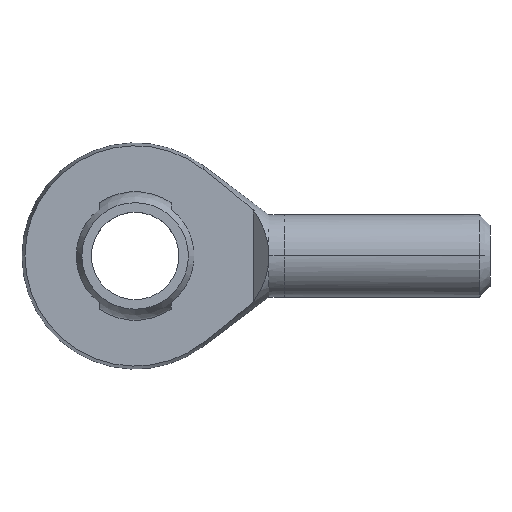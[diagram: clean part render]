
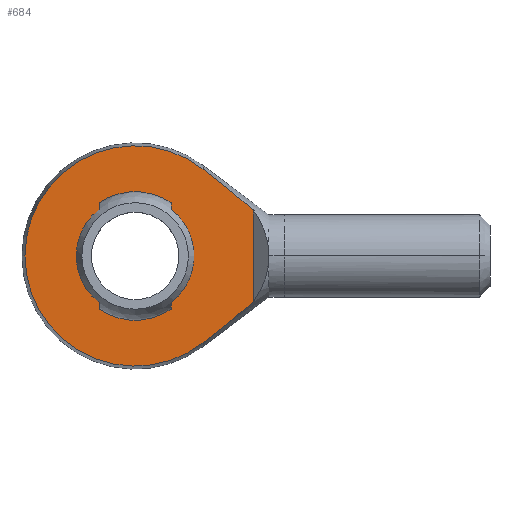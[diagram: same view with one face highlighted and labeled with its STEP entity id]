
A CAD part, top view. The second image highlights one B-rep face of the part: STEP entity #684.
In plain terms, the highlighted planar face has unit normal (0, 0, 1).
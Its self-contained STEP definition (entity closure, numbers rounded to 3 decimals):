
#3 = VERTEX_POINT ( 'NONE', #776 ) ;
#8 = VERTEX_POINT ( 'NONE', #767 ) ;
#9 = EDGE_CURVE ( 'NONE', #3, #8, #762, .T. ) ;
#86 = DIRECTION ( 'NONE',  ( 0., 1., 0. ) ) ;
#87 = VECTOR ( 'NONE', #86, 1000. ) ;
#88 = CARTESIAN_POINT ( 'NONE',  ( 7., 10.356, 5. ) ) ;
#89 = LINE ( 'NONE', #88, #87 ) ;
#95 = CARTESIAN_POINT ( 'NONE',  ( 23., -8.943, 5. ) ) ;
#96 = CARTESIAN_POINT ( 'NONE',  ( 7., -9.069, 5. ) ) ;
#97 = CARTESIAN_POINT ( 'NONE',  ( 7., -10.356, 5. ) ) ;
#107 = CARTESIAN_POINT ( 'NONE',  ( 7., 9.069, 5. ) ) ;
#114 = DIRECTION ( 'NONE',  ( 0., 1., 0. ) ) ;
#115 = VECTOR ( 'NONE', #114, 1000. ) ;
#116 = CARTESIAN_POINT ( 'NONE',  ( 7., 10.356, 5. ) ) ;
#117 = LINE ( 'NONE', #116, #115 ) ;
#567 = EDGE_CURVE ( 'NONE', #8, #1270, #871, .T. ) ;
#617 = VERTEX_POINT ( 'NONE', #987 ) ;
#679 = ORIENTED_EDGE ( 'NONE', *, *, #1256, .F. ) ;
#680 = EDGE_LOOP ( 'NONE', ( #679, #682, #687, #689, #685, #702, #703, #698 ) ) ;
#681 = EDGE_CURVE ( 'NONE', #1259, #1267, #1111, .T. ) ;
#682 = ORIENTED_EDGE ( 'NONE', *, *, #681, .T. ) ;
#683 = EDGE_CURVE ( 'NONE', #711, #686, #1106, .T. ) ;
#684 = ADVANCED_FACE ( 'NONE', ( #1102, #1101 ), #1100, .F. ) ;
#685 = ORIENTED_EDGE ( 'NONE', *, *, #683, .F. ) ;
#686 = VERTEX_POINT ( 'NONE', #1095 ) ;
#687 = ORIENTED_EDGE ( 'NONE', *, *, #1271, .F. ) ;
#689 = ORIENTED_EDGE ( 'NONE', *, *, #690, .F. ) ;
#690 = EDGE_CURVE ( 'NONE', #686, #1266, #1089, .T. ) ;
#691 = EDGE_LOOP ( 'NONE', ( #692, #695, #693, #694 ) ) ;
#692 = ORIENTED_EDGE ( 'NONE', *, *, #567, .T. ) ;
#693 = ORIENTED_EDGE ( 'NONE', *, *, #724, .T. ) ;
#694 = ORIENTED_EDGE ( 'NONE', *, *, #9, .T. ) ;
#695 = ORIENTED_EDGE ( 'NONE', *, *, #696, .T. ) ;
#696 = EDGE_CURVE ( 'NONE', #1270, #747, #1147, .T. ) ;
#698 = ORIENTED_EDGE ( 'NONE', *, *, #699, .F. ) ;
#699 = EDGE_CURVE ( 'NONE', #1238, #617, #1136, .T. ) ;
#702 = ORIENTED_EDGE ( 'NONE', *, *, #733, .T. ) ;
#703 = ORIENTED_EDGE ( 'NONE', *, *, #1233, .F. ) ;
#711 = VERTEX_POINT ( 'NONE', #1129 ) ;
#724 = EDGE_CURVE ( 'NONE', #747, #3, #1172, .T. ) ;
#733 = EDGE_CURVE ( 'NONE', #711, #735, #1202, .T. ) ;
#735 = VERTEX_POINT ( 'NONE', #1196 ) ;
#747 = VERTEX_POINT ( 'NONE', #1229 ) ;
#758 = DIRECTION ( 'NONE',  ( -1., 0., 0. ) ) ;
#759 = DIRECTION ( 'NONE',  ( 0., 0., 1. ) ) ;
#760 = CARTESIAN_POINT ( 'NONE',  ( 0., 0., 5. ) ) ;
#761 = AXIS2_PLACEMENT_3D ( 'NONE', #760, #759, #758 ) ;
#762 = CIRCLE ( 'NONE', #761, 21.424 ) ;
#767 = CARTESIAN_POINT ( 'NONE',  ( 13.204, -16.871, 5. ) ) ;
#776 = CARTESIAN_POINT ( 'NONE',  ( 13.204, 16.871, 5. ) ) ;
#864 = CARTESIAN_POINT ( 'NONE',  ( 23., -8.943, 5. ) ) ;
#865 = CARTESIAN_POINT ( 'NONE',  ( 21.406, -10.314, 5. ) ) ;
#866 = CARTESIAN_POINT ( 'NONE',  ( 19.78, -11.643, 5. ) ) ;
#867 = CARTESIAN_POINT ( 'NONE',  ( 16.507, -14.276, 5. ) ) ;
#868 = CARTESIAN_POINT ( 'NONE',  ( 14.858, -15.577, 5. ) ) ;
#869 = CARTESIAN_POINT ( 'NONE',  ( 13.204, -16.871, 5. ) ) ;
#871 = B_SPLINE_CURVE_WITH_KNOTS ( 'NONE', 3,
 ( #869, #868, #867, #866, #865, #864 ),
 .UNSPECIFIED., .F., .F.,
 ( 4, 2, 4 ),
 ( 0.062, 0.068, 0.074 ),
 .UNSPECIFIED. ) ;
#969 = CARTESIAN_POINT ( 'NONE',  ( 7., 10.356, 5. ) ) ;
#987 = CARTESIAN_POINT ( 'NONE',  ( -7., 10.356, 5. ) ) ;
#1086 = DIRECTION ( 'NONE',  ( 0., 0., 1. ) ) ;
#1087 = CARTESIAN_POINT ( 'NONE',  ( 0., 0., 5. ) ) ;
#1088 = AXIS2_PLACEMENT_3D ( 'NONE', #1087, #1086, #1148 ) ;
#1089 = CIRCLE ( 'NONE', #1088, 12.5 ) ;
#1095 = CARTESIAN_POINT ( 'NONE',  ( -7., -10.356, 5. ) ) ;
#1096 = DIRECTION ( 'NONE',  ( -1., 0., 0. ) ) ;
#1097 = DIRECTION ( 'NONE',  ( 0., 0., -1. ) ) ;
#1098 = CARTESIAN_POINT ( 'NONE',  ( -22., -22., 5. ) ) ;
#1099 = AXIS2_PLACEMENT_3D ( 'NONE', #1098, #1097, #1096 ) ;
#1100 = PLANE ( 'NONE',  #1099 ) ;
#1101 = FACE_OUTER_BOUND ( 'NONE', #691, .T. ) ;
#1102 = FACE_BOUND ( 'NONE', #680, .T. ) ;
#1103 = DIRECTION ( 'NONE',  ( 0., -1., 0. ) ) ;
#1104 = VECTOR ( 'NONE', #1103, 1000. ) ;
#1105 = CARTESIAN_POINT ( 'NONE',  ( -7., 10.356, 5. ) ) ;
#1106 = LINE ( 'NONE', #1105, #1104 ) ;
#1107 = DIRECTION ( 'NONE',  ( -1., 0., 0. ) ) ;
#1108 = DIRECTION ( 'NONE',  ( 0., 0., -1. ) ) ;
#1109 = CARTESIAN_POINT ( 'NONE',  ( 0., 0., 5. ) ) ;
#1110 = AXIS2_PLACEMENT_3D ( 'NONE', #1109, #1108, #1107 ) ;
#1111 = CIRCLE ( 'NONE', #1110, 11.456 ) ;
#1129 = CARTESIAN_POINT ( 'NONE',  ( -7., -9.069, 5. ) ) ;
#1133 = DIRECTION ( 'NONE',  ( 1., 0., 0. ) ) ;
#1134 = DIRECTION ( 'NONE',  ( 0., 0., 1. ) ) ;
#1135 = AXIS2_PLACEMENT_3D ( 'NONE', #1140, #1134, #1133 ) ;
#1136 = CIRCLE ( 'NONE', #1135, 12.5 ) ;
#1140 = CARTESIAN_POINT ( 'NONE',  ( 0., 0., 5. ) ) ;
#1144 = DIRECTION ( 'NONE',  ( 0., 1., 0. ) ) ;
#1145 = VECTOR ( 'NONE', #1144, 1000. ) ;
#1146 = CARTESIAN_POINT ( 'NONE',  ( 23., -22., 5. ) ) ;
#1147 = LINE ( 'NONE', #1146, #1145 ) ;
#1148 = DIRECTION ( 'NONE',  ( 1., 0., 0. ) ) ;
#1162 = CARTESIAN_POINT ( 'NONE',  ( 13.204, 16.871, 5. ) ) ;
#1163 = CARTESIAN_POINT ( 'NONE',  ( 14.858, 15.577, 5. ) ) ;
#1164 = CARTESIAN_POINT ( 'NONE',  ( 16.507, 14.276, 5. ) ) ;
#1165 = CARTESIAN_POINT ( 'NONE',  ( 19.78, 11.643, 5. ) ) ;
#1166 = CARTESIAN_POINT ( 'NONE',  ( 21.406, 10.314, 5. ) ) ;
#1167 = CARTESIAN_POINT ( 'NONE',  ( 23., 8.943, 5. ) ) ;
#1172 = B_SPLINE_CURVE_WITH_KNOTS ( 'NONE', 3,
 ( #1167, #1166, #1165, #1164, #1163, #1162 ),
 .UNSPECIFIED., .F., .F.,
 ( 4, 2, 4 ),
 ( 0.098, 0.104, 0.11 ),
 .UNSPECIFIED. ) ;
#1196 = CARTESIAN_POINT ( 'NONE',  ( -7., 9.069, 5. ) ) ;
#1198 = DIRECTION ( 'NONE',  ( -1., 0., 0. ) ) ;
#1199 = DIRECTION ( 'NONE',  ( 0., 0., -1. ) ) ;
#1200 = CARTESIAN_POINT ( 'NONE',  ( 0., 0., 5. ) ) ;
#1201 = AXIS2_PLACEMENT_3D ( 'NONE', #1200, #1199, #1198 ) ;
#1202 = CIRCLE ( 'NONE', #1201, 11.456 ) ;
#1218 = DIRECTION ( 'NONE',  ( 0., -1., 0. ) ) ;
#1219 = VECTOR ( 'NONE', #1218, 1000. ) ;
#1220 = CARTESIAN_POINT ( 'NONE',  ( -7., 10.356, 5. ) ) ;
#1221 = LINE ( 'NONE', #1220, #1219 ) ;
#1229 = CARTESIAN_POINT ( 'NONE',  ( 23., 8.943, 5. ) ) ;
#1233 = EDGE_CURVE ( 'NONE', #617, #735, #1221, .T. ) ;
#1238 = VERTEX_POINT ( 'NONE', #969 ) ;
#1256 = EDGE_CURVE ( 'NONE', #1259, #1238, #117, .T. ) ;
#1259 = VERTEX_POINT ( 'NONE', #107 ) ;
#1266 = VERTEX_POINT ( 'NONE', #97 ) ;
#1267 = VERTEX_POINT ( 'NONE', #96 ) ;
#1270 = VERTEX_POINT ( 'NONE', #95 ) ;
#1271 = EDGE_CURVE ( 'NONE', #1266, #1267, #89, .T. ) ;
